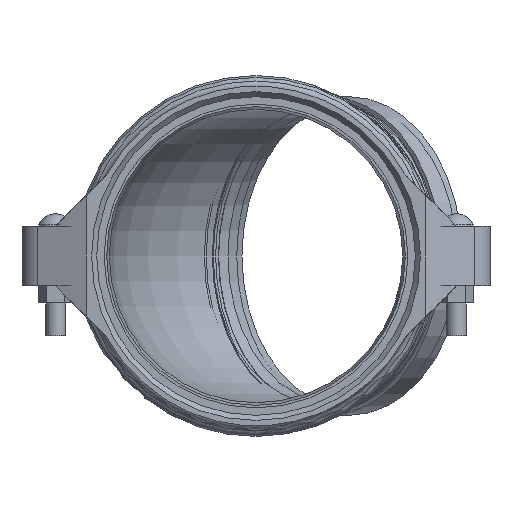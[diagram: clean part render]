
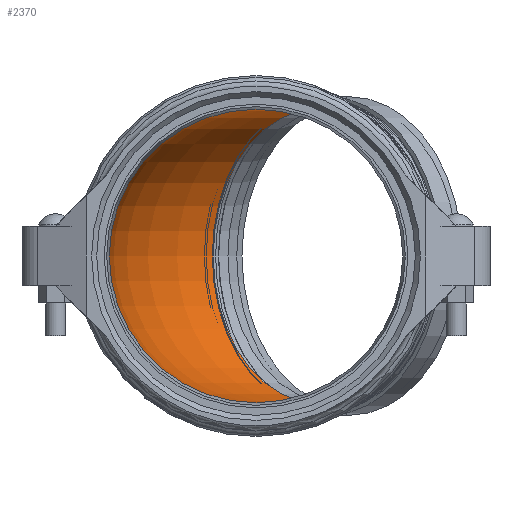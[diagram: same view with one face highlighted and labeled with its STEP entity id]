
A CAD part, left-side view. The second image highlights one B-rep face of the part: STEP entity #2370.
In plain terms, the highlighted toroidal (fillet/blend) face has major radius 265.52 mm and minor radius 187.198 mm.
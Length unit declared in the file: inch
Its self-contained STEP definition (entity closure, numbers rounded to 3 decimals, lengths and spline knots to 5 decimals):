
#76=TOROIDAL_SURFACE('',#2712,10.45354,7.37);
#528=FACE_OUTER_BOUND('',#665,.T.);
#665=EDGE_LOOP('',(#1967,#1968,#1969,#1970,#1971));
#807=CIRCLE('',#2713,7.37);
#808=CIRCLE('',#2714,3.08354);
#809=CIRCLE('',#2715,7.37);
#810=CIRCLE('',#2716,7.37);
#1050=VERTEX_POINT('',#4460);
#1051=VERTEX_POINT('',#4462);
#1052=VERTEX_POINT('',#4464);
#1366=EDGE_CURVE('',#1050,#1050,#807,.T.);
#1367=EDGE_CURVE('',#1050,#1051,#808,.T.);
#1368=EDGE_CURVE('',#1051,#1052,#809,.T.);
#1369=EDGE_CURVE('',#1052,#1051,#810,.T.);
#1967=ORIENTED_EDGE('',*,*,#1366,.F.);
#1968=ORIENTED_EDGE('',*,*,#1367,.T.);
#1969=ORIENTED_EDGE('',*,*,#1368,.T.);
#1970=ORIENTED_EDGE('',*,*,#1369,.T.);
#1971=ORIENTED_EDGE('',*,*,#1367,.F.);
#2370=ADVANCED_FACE('',(#528),#76,.F.);
#2712=AXIS2_PLACEMENT_3D('',#4459,#3365,#3366);
#2713=AXIS2_PLACEMENT_3D('',#4461,#3367,#3368);
#2714=AXIS2_PLACEMENT_3D('',#4463,#3369,#3370);
#2715=AXIS2_PLACEMENT_3D('',#4465,#3371,#3372);
#2716=AXIS2_PLACEMENT_3D('',#4466,#3373,#3374);
#3365=DIRECTION('center_axis',(0.,0.,-1.));
#3366=DIRECTION('ref_axis',(-1.,0.,0.));
#3367=DIRECTION('center_axis',(0.,1.,0.));
#3368=DIRECTION('ref_axis',(-1.,0.,0.));
#3369=DIRECTION('center_axis',(0.,0.,-1.));
#3370=DIRECTION('ref_axis',(-1.,0.,0.));
#3371=DIRECTION('center_axis',(0.707,0.707,0.));
#3372=DIRECTION('ref_axis',(-0.707,0.707,0.));
#3373=DIRECTION('center_axis',(0.707,0.707,0.));
#3374=DIRECTION('ref_axis',(-0.707,0.707,0.));
#4459=CARTESIAN_POINT('Origin',(10.45354,-4.33,0.));
#4460=CARTESIAN_POINT('',(7.37,-4.33,0.));
#4461=CARTESIAN_POINT('Origin',(0.,-4.33,0.));
#4462=CARTESIAN_POINT('',(8.27315,-2.1496,0.));
#4463=CARTESIAN_POINT('Origin',(10.45354,-4.33,0.));
#4464=CARTESIAN_POINT('',(3.06177,3.06177,7.37));
#4465=CARTESIAN_POINT('Origin',(3.06177,3.06177,0.));
#4466=CARTESIAN_POINT('Origin',(3.06177,3.06177,0.));
